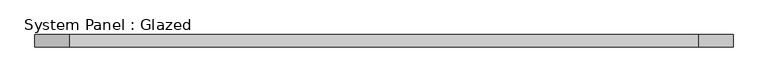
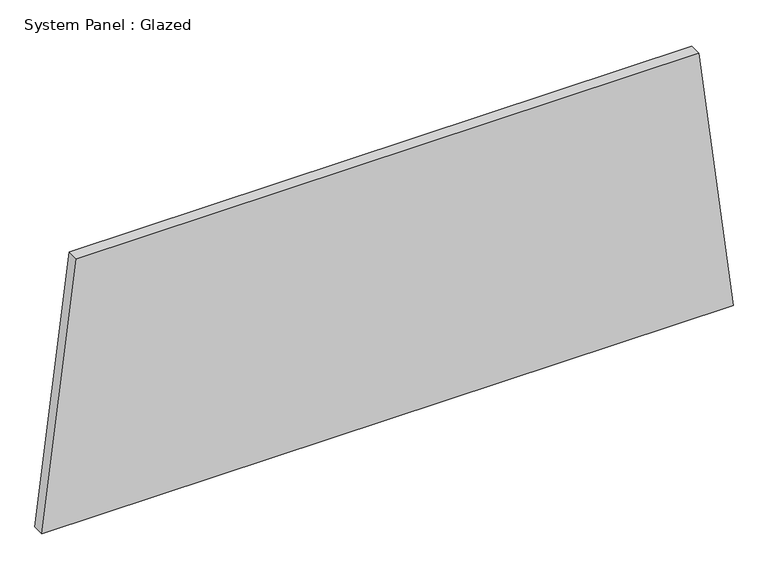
"""IFC4 building model written with IfcOpenShell, lengths in millimetres: plate geometry, System Panel : Glazed."""

from ifc_helpers import new_model, si_unit, frame, origin, place, context, project, spatial, polyline, outline, extrude, source, transform, mapped, element, save


def system_panel_glazed_aea5d21f(model_context):
    return source(origin(), model_context, "Body", "SweptSolid", [
        extrude(outline(polyline([(0.0, -718.4322295), (0.0, 718.4322295), (579.5793733, 646.6634195), (579.5793733, -646.6634195), (0.0, -718.4322295)])), frame((0.0, 19.05, 0.0), z_axis=(0.0, 1.0, 0.0), x_axis=(0.0, 0.0, 1.0)), (0.0, 0.0, 1.0), 25.4),
    ])


if __name__ == "__main__":
    model = new_model("IFC4")
    model_context = context("Model", 3, world=origin())
    ifc_project = project(units=[si_unit("LENGTHUNIT", "METRE", prefix="MILLI")], contexts=[model_context])
    site = spatial("IfcSite", under=ifc_project)
    building = spatial("IfcBuilding", under=site)
    placement = place(None, origin())
    system_panel_glazed_shape = system_panel_glazed_aea5d21f(model_context)
    element("IfcPlate", 1, ObjectType="System Panel : Glazed", at=placement, inside=building, context=model_context, shape_type="MappedRepresentation", body=[
        mapped(system_panel_glazed_shape, transform((0.0, 0.0, 0.0), x_axis=(1.0, 0.0, 0.0), y_axis=(0.0, 1.0, 0.0), z_axis=(0.0, 0.0, 1.0))),
    ])
    save(model, "model.ifc")
